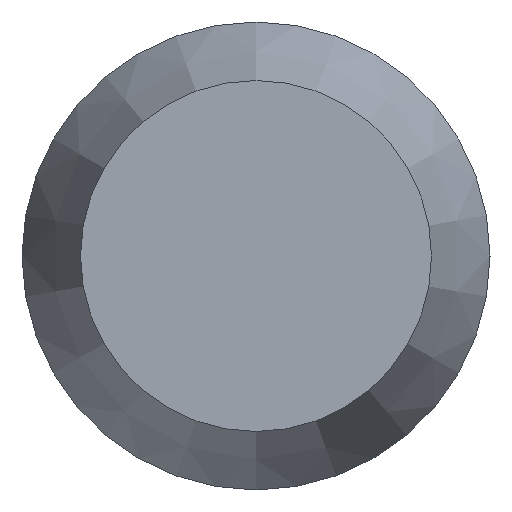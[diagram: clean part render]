
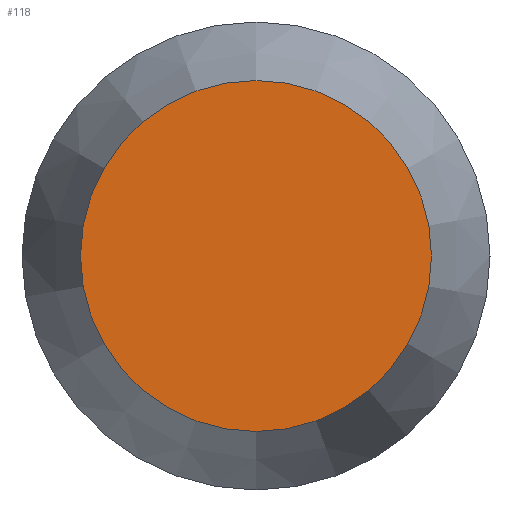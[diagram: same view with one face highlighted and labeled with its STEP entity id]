
A CAD part, left-side view. The second image highlights one B-rep face of the part: STEP entity #118.
In plain terms, the highlighted planar face has unit normal (-1, 0, 0).
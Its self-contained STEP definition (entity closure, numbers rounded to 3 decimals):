
#118=ADVANCED_FACE('',(#124),#122,.T.);
#122=PLANE('',#188);
#124=FACE_OUTER_BOUND('',#136,.T.);
#136=EDGE_LOOP('',(#150));
#150=ORIENTED_EDGE('',*,*,#166,.T.);
#159=VERTEX_POINT('',#242);
#166=EDGE_CURVE('',#159,#159,#173,.T.);
#173=CIRCLE('',#187,3.75);
#187=AXIS2_PLACEMENT_3D('',#241,#216,#217);
#188=AXIS2_PLACEMENT_3D('',#243,#218,#219);
#216=DIRECTION('',(-1.,0.,0.));
#217=DIRECTION('',(0.,0.,1.));
#218=DIRECTION('',(-1.,0.,0.));
#219=DIRECTION('',(0.,0.,1.));
#241=CARTESIAN_POINT('',(7893.912,6103.288,0.));
#242=CARTESIAN_POINT('',(7893.912,6103.288,3.75));
#243=CARTESIAN_POINT('',(7893.912,6103.288,0.));
